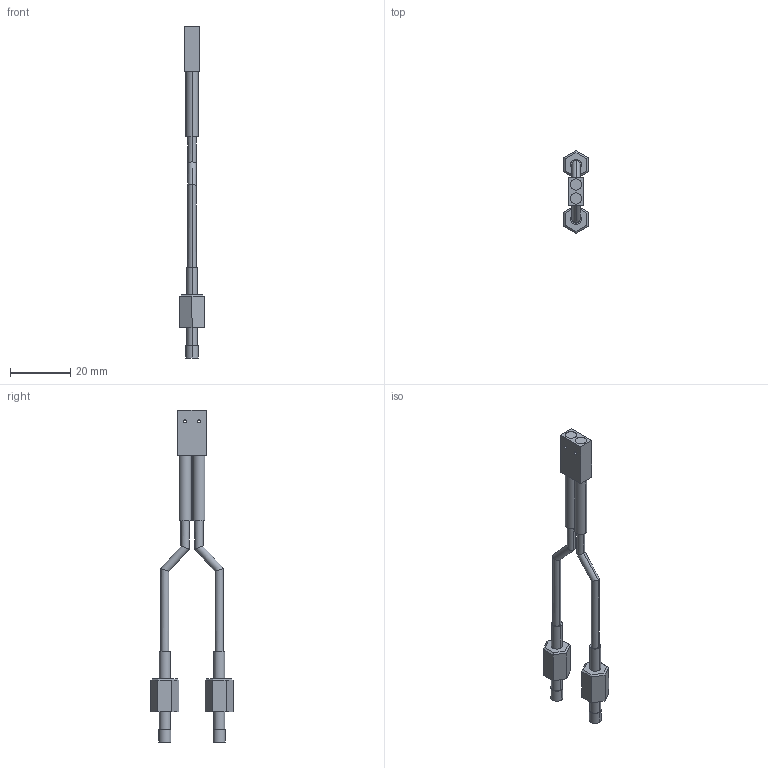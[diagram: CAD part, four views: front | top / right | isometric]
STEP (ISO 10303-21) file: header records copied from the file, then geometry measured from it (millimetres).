
FILE_DESCRIPTION (( 'STEP AP203' ), '1' );
FILE_NAME ('FD-H30-KZ1V.STEP', '2005-09-04T09:42:56', ( '川島良英' ), ( ' ' ), 'SwSTEP 2.0', 'SolidWorks 2004251', '' );
FILE_SCHEMA (( 'CONFIG_CONTROL_DESIGN' ));
Length unit declared in the file: millimetre
Products named in the file (1): FD-H30-KZ1V
Bounding box: 8 x 27.24 x 110 mm (x, y, z)
Volume: 3249.7 mm3; surface area: 3736 mm2
Topology: 5 solids, 5 shells, 88 faces, 184 edges, 116 vertices
Faces by surface type: plane 48, cylinder 40
Entity records: 2417 total; most frequent: DIRECTION 418, CARTESIAN_POINT 413, ORIENTED_EDGE 368, EDGE_CURVE 184, AXIS2_PLACEMENT_3D 153, VERTEX_POINT 116, VECTOR 112, LINE 112
